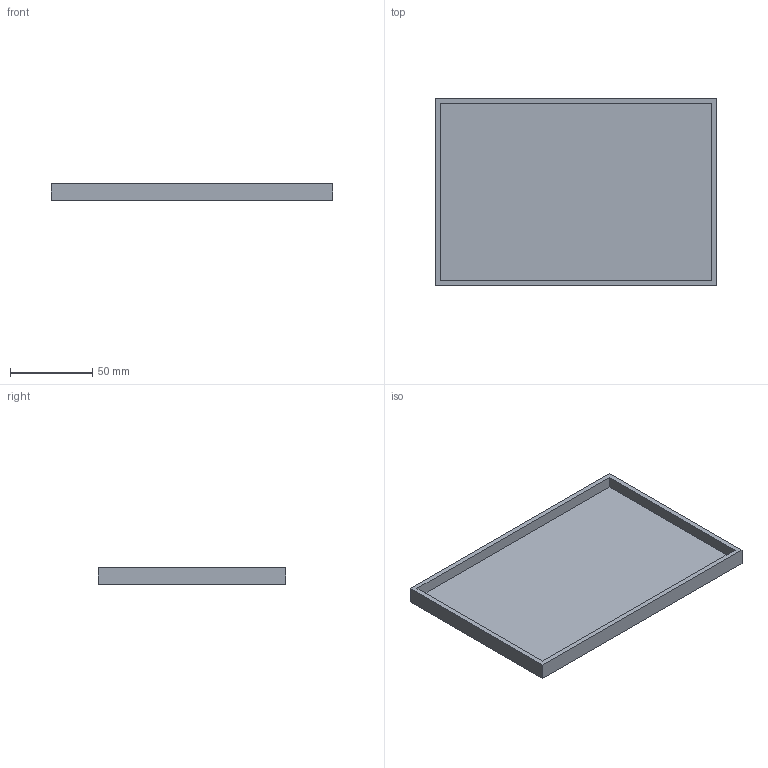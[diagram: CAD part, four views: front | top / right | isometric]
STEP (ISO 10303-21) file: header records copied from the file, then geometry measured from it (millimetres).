
FILE_DESCRIPTION(('PrintNexus faceted mesh STEP'),'2;1');
FILE_NAME('v1-Case-for-Guitar-pedal-project-2.step','2026-10-04T05:46:14.319Z',('PrintNexus'),('PrintNexus'),'PrintNexus','PrintNexus','');
FILE_SCHEMA(('CONFIG_CONTROL_DESIGN'));
Length unit declared in the file: millimetre
Products named in the file (1): v1-Case-for-Guitar-pedal-project-2
Bounding box: 171 x 114 x 10 mm (x, y, z)
Volume: 70200 mm3; surface area: 48510 mm2
Topology: 1 solids, 1 shells, 11 faces, 24 edges, 16 vertices
Faces by surface type: plane 11
Entity records: 122 total; most frequent: DIRECTION 24, CARTESIAN_POINT 17, POLY_LOOP 12, AXIS2_PLACEMENT_3D 12, FACE_OUTER_BOUND 11, PLANE 11, FACE_SURFACE 11, APPLICATION_CONTEXT 1
